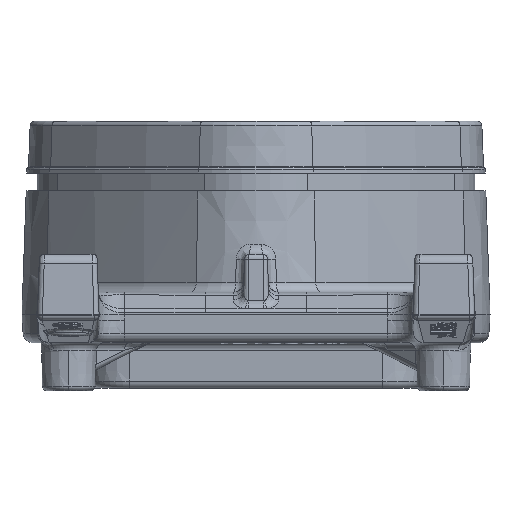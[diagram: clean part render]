
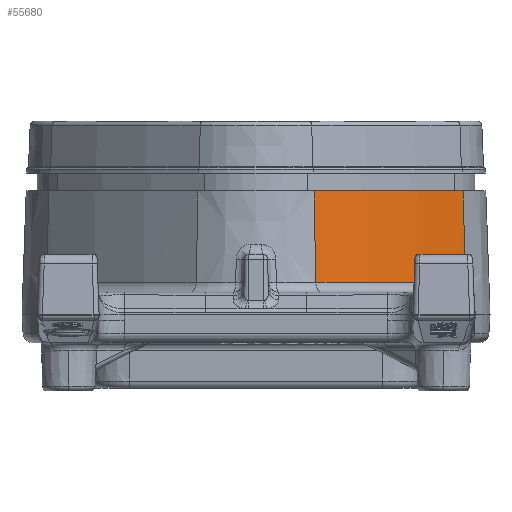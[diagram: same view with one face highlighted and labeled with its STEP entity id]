
A CAD part, left-side view. The second image highlights one B-rep face of the part: STEP entity #55680.
In plain terms, the highlighted conical face has half-angle 2 degrees and reference radius 150 mm.
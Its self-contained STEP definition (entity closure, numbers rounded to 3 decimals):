
#14182=AXIS2_PLACEMENT_3D('Circle Axis2P3D',#14180,#14181,$) ;
#16200=AXIS2_PLACEMENT_3D('Circle Axis2P3D',#16198,#16199,$) ;
#33019=AXIS2_PLACEMENT_3D('Cone Axis2P3D',#33016,#33017,#33018) ;
#14177=CARTESIAN_POINT('Vertex',(-74.322,-11.458,25.5)) ;
#14180=CARTESIAN_POINT('Axis2P3D Location',(48.084,75.,25.5)) ;
#14184=CARTESIAN_POINT('Vertex',(-46.904,-40.911,25.5)) ;
#15271=CARTESIAN_POINT('Vertex',(-74.837,-11.822,7.43)) ;
#16142=CARTESIAN_POINT('Control Point',(-47.309,-41.405,7.232)) ;
#16143=CARTESIAN_POINT('Control Point',(-47.373,-41.351,7.252)) ;
#16144=CARTESIAN_POINT('Control Point',(-47.437,-41.297,7.272)) ;
#16145=CARTESIAN_POINT('Control Point',(-47.502,-41.243,7.29)) ;
#16146=CARTESIAN_POINT('Control Point',(-47.754,-41.033,7.354)) ;
#16147=CARTESIAN_POINT('Control Point',(-48.008,-40.821,7.398)) ;
#16148=CARTESIAN_POINT('Control Point',(-48.197,-40.662,7.419)) ;
#16149=CARTESIAN_POINT('Control Point',(-48.387,-40.504,7.43)) ;
#16150=CARTESIAN_POINT('Control Point',(-48.576,-40.345,7.43)) ;
#16151=CARTESIAN_POINT('Vertex',(-47.309,-41.405,7.232)) ;
#16153=CARTESIAN_POINT('Vertex',(-48.576,-40.345,7.43)) ;
#16198=CARTESIAN_POINT('Axis2P3D Location',(48.084,75.,7.43)) ;
#33016=CARTESIAN_POINT('Axis2P3D Location',(48.084,75.,21.5)) ;
#55276=CARTESIAN_POINT('Line Origine',(-47.186,-41.256,12.75)) ;
#55668=CARTESIAN_POINT('Line Origine',(-74.686,-11.715,12.75)) ;
#14181=DIRECTION('Axis2P3D Direction',(0.,0.,1.)) ;
#16199=DIRECTION('Axis2P3D Direction',(0.,0.,1.)) ;
#33017=DIRECTION('Axis2P3D Direction',(-0.,-0.,-1.)) ;
#33018=DIRECTION('Axis2P3D XDirection',(-0.817,-0.577,0.)) ;
#55277=DIRECTION('Vector Direction',(-0.022,-0.027,-0.999)) ;
#55669=DIRECTION('Vector Direction',(-0.029,-0.02,-0.999)) ;
#55278=VECTOR('Line Direction',#55277,1.) ;
#55670=VECTOR('Line Direction',#55669,1.) ;
#55674=ORIENTED_EDGE('',*,*,#16202,.F.) ;
#55675=ORIENTED_EDGE('',*,*,#16155,.F.) ;
#55676=ORIENTED_EDGE('',*,*,#55280,.T.) ;
#55677=ORIENTED_EDGE('',*,*,#14186,.F.) ;
#55678=ORIENTED_EDGE('',*,*,#55672,.F.) ;
#55680=ADVANCED_FACE('Partbody (Halterahmen)_12045477',(#55679),#33020,.T.) ;
#16141=B_SPLINE_CURVE_WITH_KNOTS('',5,(#16142,#16143,#16144,#16145,#16146,#16147,#16148,#16149,#16150),.UNSPECIFIED.,.F.,.U.,(6,3,6),(11.384,11.932,13.517),.UNSPECIFIED.) ;
#14183=CIRCLE('generated circle',#14182,149.86) ;
#16201=CIRCLE('generated circle',#16200,150.491) ;
#33020=CONICAL_SURFACE('Cone',#33019,150.,0.035) ;
#14186=EDGE_CURVE('',#14178,#14185,#14183,.T.) ;
#16155=EDGE_CURVE('',#16152,#16154,#16141,.T.) ;
#16202=EDGE_CURVE('',#16154,#15272,#16201,.F.) ;
#55280=EDGE_CURVE('',#16152,#14185,#55279,.F.) ;
#55672=EDGE_CURVE('',#15272,#14178,#55671,.F.) ;
#55673=EDGE_LOOP('',(#55674,#55675,#55676,#55677,#55678)) ;
#55679=FACE_OUTER_BOUND('',#55673,.T.) ;
#55279=LINE('Line',#55276,#55278) ;
#55671=LINE('Line',#55668,#55670) ;
#14178=VERTEX_POINT('',#14177) ;
#14185=VERTEX_POINT('',#14184) ;
#15272=VERTEX_POINT('',#15271) ;
#16152=VERTEX_POINT('',#16151) ;
#16154=VERTEX_POINT('',#16153) ;
